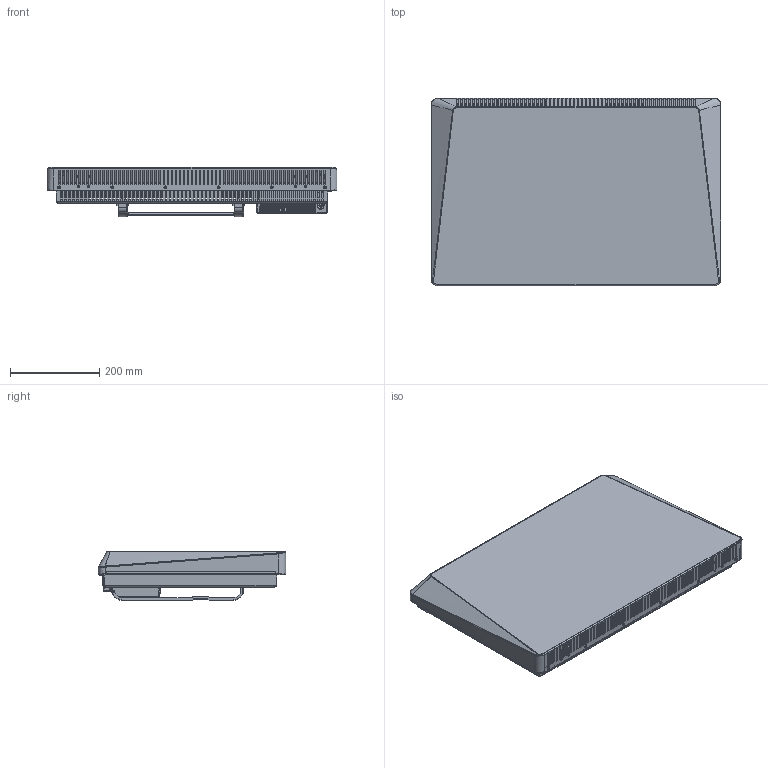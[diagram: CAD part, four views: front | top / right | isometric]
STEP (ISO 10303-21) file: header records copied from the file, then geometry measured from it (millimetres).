
FILE_DESCRIPTION(('FreeCAD Model'),'2;1');
FILE_NAME('Open CASCADE Shape Model','2026-06-11T10:10:48',(''),(''), 'Open CASCADE STEP processor 7.8','FreeCAD','Unknown');
FILE_SCHEMA(('AUTOMOTIVE_DESIGN { 1 0 10303 214 1 1 1 1 }'));
Length unit declared in the file: millimetre
Products named in the file (11): Unnamed; STE_POSTERIORE-1000W_ASM; STE_POSTERIORE_1000W; STE_GR-SCATOLA-COMANDI_ASM; STE_CORPO-SCATOLA-COMANDI; STE_SUPPORTO-PCB-COMMAND; STE_TASTIERA-ADESIVA; STE_FRONTALE_1000W; HCA10-SUPPORTO-MURALE_1000W_ASM; HCA10-M006_1000W; HCA10-M005-GUAQIANGZHIJIA_1
Assembly tree (11 placements, depth 3):
  Unnamed
    STE_POSTERIORE-1000W_ASM
      STE_POSTERIORE_1000W
    STE_GR-SCATOLA-COMANDI_ASM
      STE_CORPO-SCATOLA-COMANDI
      STE_SUPPORTO-PCB-COMMAND
      STE_TASTIERA-ADESIVA
    STE_FRONTALE_1000W
    HCA10-SUPPORTO-MURALE_1000W_ASM
      HCA10-M006_1000W
      HCA10-M005-GUAQIANGZHIJIA_1  x2
Bounding box: 650 x 420 x 110.5 mm (x, y, z)
Volume: 609934.8 mm3; surface area: 1561366 mm2
Topology: 8 solids, 8 shells, 4433 faces, 12337 edges, 7625 vertices
Faces by surface type: plane 2564, cylinder 1164, bspline 306, cone 189, torus 154, sphere 56
Entity records: 152507 total; most frequent: CARTESIAN_POINT 44585, ORIENTED_EDGE 23582, DIRECTION 20712, EDGE_CURVE 11791, LINE 8450, VECTOR 8450, VERTEX_POINT 7311, AXIS2_PLACEMENT_3D 6131
